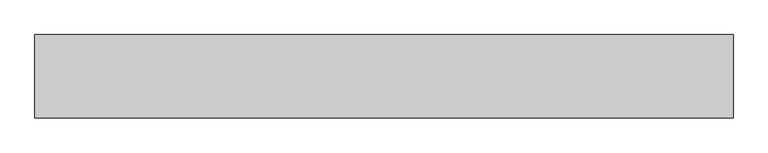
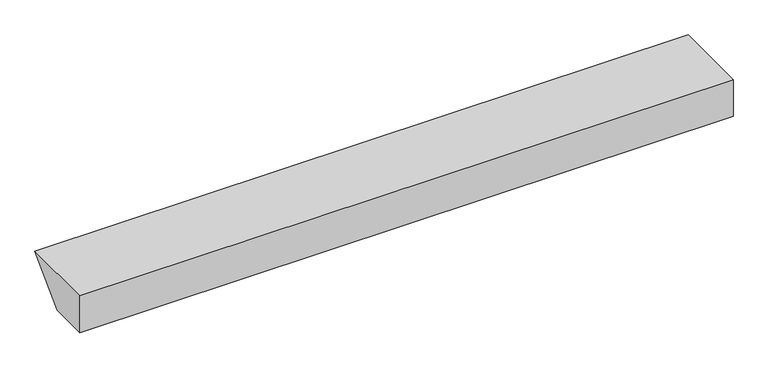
"""IFC4 building model written with IfcOpenShell, lengths in millimetres: proxy geometry, Gousset traverse bord droit : Gousset traverse bord droit."""

from ifc_helpers import new_model, si_unit, frame, origin, place, context, project, spatial, polyline, outline, extrude, source, transform, mapped, element, save


def generic_models_bdcf9df0(model_context):
    return source(origin(), model_context, "Body", "SweptSolid", [
        extrude(outline(polyline([(0.0, -350.0), (700.0, -350.0), (350.0, -700.0), (0.0, -700.0), (0.0, -350.0)])), frame((0.0, 0.0, 0.0), z_axis=(1.0, 0.0, 0.0), x_axis=(0.0, 1.0, 0.0)), (0.0, 0.0, 1.0), 5873.5479057),
    ])


if __name__ == "__main__":
    model = new_model("IFC4")
    model_context = context("Model", 3, world=origin())
    ifc_project = project(units=[si_unit("LENGTHUNIT", "METRE", prefix="MILLI")], contexts=[model_context])
    site = spatial("IfcSite", under=ifc_project)
    building = spatial("IfcBuilding", under=site)
    placement = place(None, origin())
    generic_models_shape = generic_models_bdcf9df0(model_context)
    element("IfcBuildingElementProxy", 1, Name="Gousset traverse bord droit : Gousset traverse bord droit", ObjectType="Gousset traverse bord droit : Gousset traverse bord droit", at=placement, inside=building, context=model_context, shape_type="MappedRepresentation", body=[
        mapped(generic_models_shape, transform((0.0, 0.0, 0.0), x_axis=(1.0, 0.0, 0.0), y_axis=(0.0, 1.0, 0.0), z_axis=(0.0, 0.0, 1.0))),
    ])
    save(model, "model.ifc")
